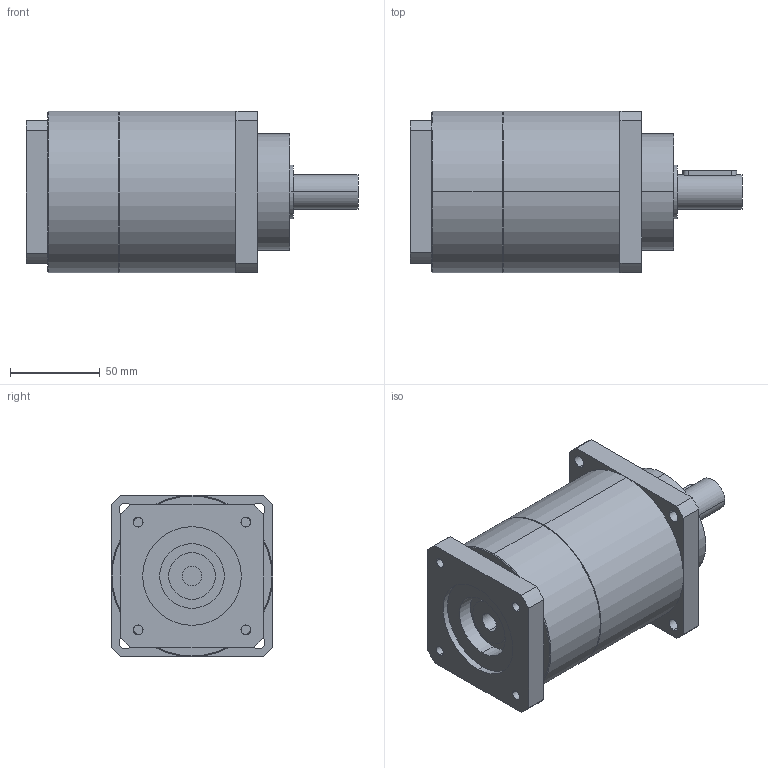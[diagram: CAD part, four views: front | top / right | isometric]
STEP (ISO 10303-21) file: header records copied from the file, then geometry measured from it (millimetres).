
FILE_DESCRIPTION(('CoCreate Modeling STEP Export'),'2;1');
FILE_NAME('GPT90_ig-9-12-16-20-25-28-35-40-50-70-100_19_B5T_11_P20.stp','2015-02-04T11:24:14',(''),(''),'CoCreate Modeling STEP processor for AP214 (Solid Model)','CoCreate Modeling 16.00C 25-Feb-2009 (C) Parametric Technology GmbH','');
FILE_SCHEMA(('AUTOMOTIVE_DESIGN { 1 0 10303 214 1 1 1 1 }'));
Length unit declared in the file: millimetre
Products named in the file (2): GPT90_ig-9-12-16-20-25-28-35-40-50-70-100_19_B5T_11_P20
Assembly tree (1 placements, depth 2):
  GPT90_ig-9-12-16-20-25-28-35-40-50-70-100_19_B5T_11_P20
    GPT90_ig-9-12-16-20-25-28-35-40-50-70-100_19_B5T_11_P20
Bounding box: 185 x 90 x 90 mm (x, y, z)
Volume: 890111.6 mm3; surface area: 65993.4 mm2
Topology: 1 solids, 1 shells, 88 faces, 237 edges, 156 vertices
Faces by surface type: cylinder 46, plane 38, cone 4
Entity records: 2783 total; most frequent: CARTESIAN_POINT 766, ORIENTED_EDGE 474, DIRECTION 338, EDGE_CURVE 237, VERTEX_POINT 156, AXIS2_PLACEMENT_3D 125, EDGE_LOOP 109, VECTOR 88
